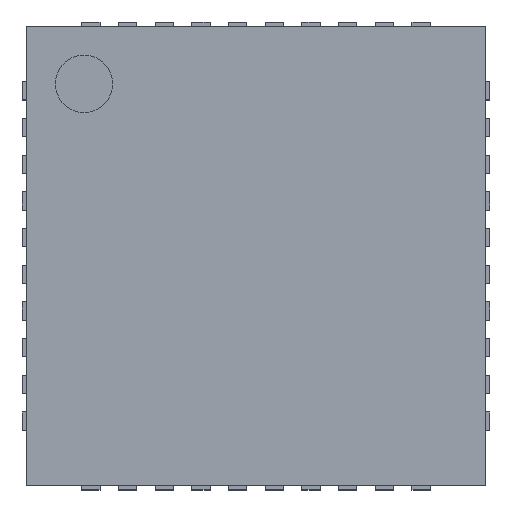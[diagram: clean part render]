
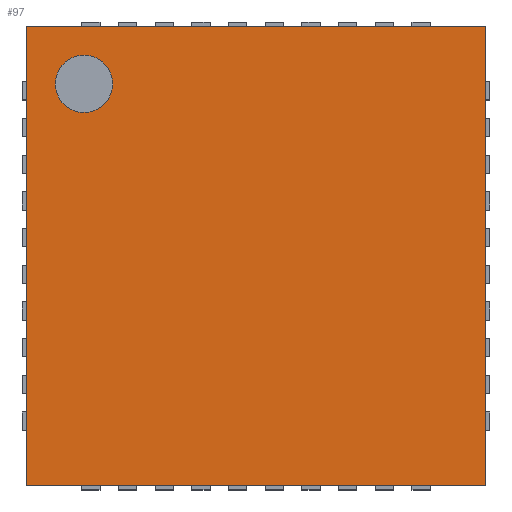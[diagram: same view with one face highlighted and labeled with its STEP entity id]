
A CAD part, top view. The second image highlights one B-rep face of the part: STEP entity #97.
In plain terms, the highlighted planar face has unit normal (0, 0, 1).
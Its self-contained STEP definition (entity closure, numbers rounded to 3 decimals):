
#30=EDGE_CURVE('',#31,#33,#35,.T.);
#31=VERTEX_POINT('',#32);
#32=CARTESIAN_POINT('',(-2.5,-2.5,0.55));
#33=VERTEX_POINT('',#34);
#34=CARTESIAN_POINT('',(-2.5,2.5,0.55));
#35=LINE('',#36,#37);
#36=CARTESIAN_POINT('',(-2.5,-2.5,0.55));
#37=VECTOR('',#38,1.0);
#38=DIRECTION('',(0.0,1.0,0.0));
#73=VERTEX_POINT('',#74);
#74=CARTESIAN_POINT('',(2.5,-2.5,0.55));
#80=EDGE_CURVE('',#73,#31,#81,.F.);
#81=LINE('',#82,#83);
#82=CARTESIAN_POINT('',(-2.5,-2.5,0.55));
#83=VECTOR('',#84,1.0);
#84=DIRECTION('',(1.0,0.0,0.0));
#97=ADVANCED_FACE('',(#98,#116),#127,.T.);
#98=FACE_BOUND('',#99,.T.);
#99=EDGE_LOOP('',(#100,#101,#102,#110));
#100=ORIENTED_EDGE('',*,*,#30,.F.);
#101=ORIENTED_EDGE('',*,*,#80,.F.);
#102=ORIENTED_EDGE('',*,*,#103,.T.);
#103=EDGE_CURVE('',#73,#104,#106,.T.);
#104=VERTEX_POINT('',#105);
#105=CARTESIAN_POINT('',(2.5,2.5,0.55));
#106=LINE('',#107,#108);
#107=CARTESIAN_POINT('',(2.5,-2.5,0.55));
#108=VECTOR('',#109,1.0);
#109=DIRECTION('',(0.0,1.0,0.0));
#110=ORIENTED_EDGE('',*,*,#111,.T.);
#111=EDGE_CURVE('',#104,#33,#112,.F.);
#112=LINE('',#113,#114);
#113=CARTESIAN_POINT('',(-2.5,2.5,0.55));
#114=VECTOR('',#115,1.0);
#115=DIRECTION('',(1.0,0.0,0.0));
#116=FACE_BOUND('',#117,.T.);
#117=EDGE_LOOP('',(#118));
#118=ORIENTED_EDGE('',*,*,#119,.T.);
#119=EDGE_CURVE('',#120,#120,#122,.F.);
#120=VERTEX_POINT('',#121);
#121=CARTESIAN_POINT('',(-1.563,1.875,0.55));
#122=CIRCLE('',#123,0.313);
#123=AXIS2_PLACEMENT_3D('',#124,#125,#126);
#124=CARTESIAN_POINT('',(-1.875,1.875,0.55));
#125=DIRECTION('',(0.0,0.0,1.0));
#126=DIRECTION('',(1.0,0.0,0.0));
#127=PLANE('',#128);
#128=AXIS2_PLACEMENT_3D('',#129,#130,#131);
#129=CARTESIAN_POINT('',(-2.5,-2.5,0.55));
#130=DIRECTION('',(0.0,0.0,1.0));
#131=DIRECTION('',(1.0,0.0,0.0));
